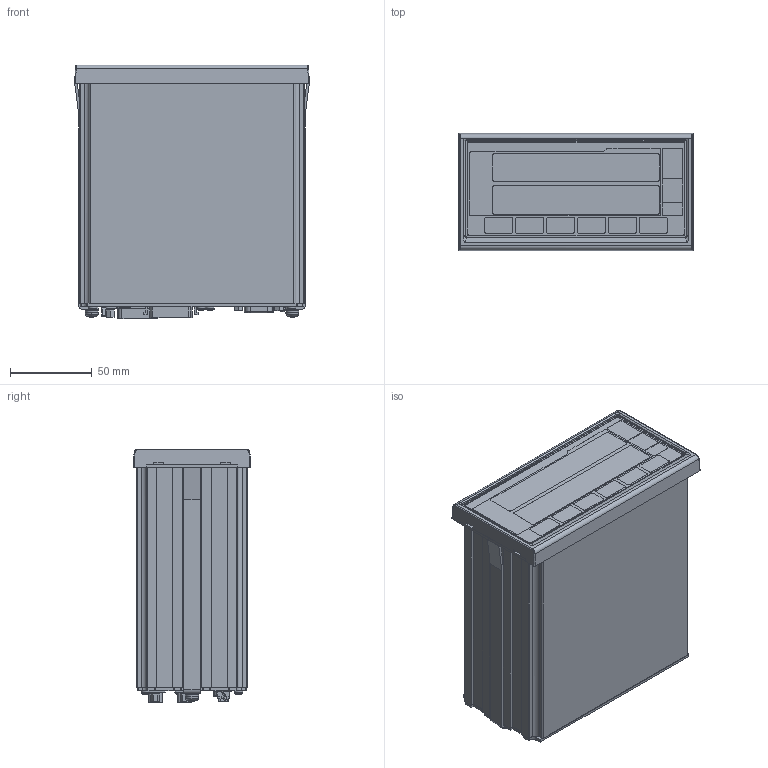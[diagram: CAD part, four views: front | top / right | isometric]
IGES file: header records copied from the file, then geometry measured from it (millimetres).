
Start section: Elysium IGES Interface
Global section: file name: 70HU:\cad_data\30_3D_CAD\LG\01_奜娤3D僨乕僞_20170601峏怴\IGES\EH-102S.igs; native system: Creo Elements/Direct Modeling 18.1B  29-Sep-2012; preprocessor: Creo Element/Direct IGES_3D V2.2; author: Unknown; organization: Unknown; date: 20170921.102921; units: millimetre
Bounding box: 144 x 72 x 155.7 mm (x, y, z)
Volume: 1353999.1 mm3; surface area: 104805.6 mm2
Topology: 1 solids, 1 shells, 1458 faces, 3740 edges, 2404 vertices
Faces by surface type: bspline 1458
